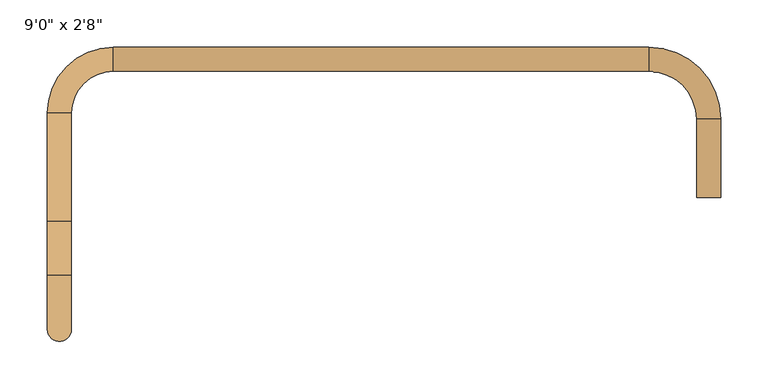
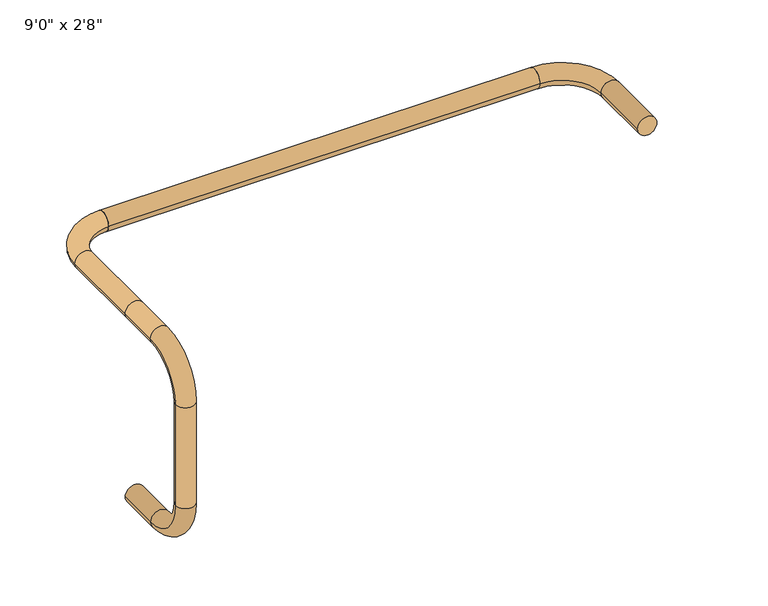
"""IFC4 building model written with IfcOpenShell, lengths in millimetres: door geometry."""

from ifc_helpers import new_model, si_unit, point, frame, frame_2d, origin, place, context, project, spatial, circle_curve, ellipse_curve, trimmed, segment, composite_curve, outline, extrude, source, transform, mapped, element, save
from ifc_brep_helpers import plane_surface, cylinder_surface, revolved_surface, advanced_brep


def door_a6d17446(model_context):
    return source(origin(), model_context, "Body", "SolidModel", [
        extrude(outline(composite_curve([segment(trimmed(circle_curve(frame_2d((1016.0, 342.9)), 12.7), [point((1016.0, 355.6))], [point((1016.0, 330.2))], False, "CARTESIAN"), True, "CONTINUOUS"), segment(trimmed(circle_curve(frame_2d((1016.0, 342.9)), 12.7), [point((1016.0, 330.2))], [point((1016.0, 355.6))], False, "CARTESIAN"), True, "CONTINUOUS")], self_intersect=False)), frame((0.0, -25.4, 0.0), z_axis=(0.0, 1.0, 0.0), x_axis=(0.0, 0.0, 1.0)), (0.0, 0.0, 1.0), 82.55),
        extrude(outline(composite_curve([segment(trimmed(circle_curve(frame_2d((120.65, 1016.0)), 12.7), [point((133.35, 1016.0))], [point((107.95, 1016.0))], False, "CARTESIAN"), True, "CONTINUOUS"), segment(trimmed(circle_curve(frame_2d((120.65, 1016.0)), 12.7), [point((107.95, 1016.0))], [point((133.35, 1016.0))], False, "CARTESIAN"), True, "CONTINUOUS")], self_intersect=False)), frame((-285.75, 0.0, 0.0), z_axis=(1.0, 0.0, 0.0), x_axis=(0.0, 1.0, 0.0)), (0.0, 0.0, 1.0), 565.15),
        advanced_brep(
        [(279.4, 107.95, 1016.0), (279.4, 133.35, 1016.0), (330.2, 57.15, 1016.0), (355.6, 57.15, 1016.0)],
        [
            (0, 1, circle_curve(frame((279.4, 120.65, 1016.0), z_axis=(-1.0, 0.0, 0.0), x_axis=(0.0, 1.0, 0.0)), 12.7)),
            (1, 0, circle_curve(frame((279.4, 120.65, 1016.0), z_axis=(-1.0, 0.0, 0.0), x_axis=(0.0, 1.0, 0.0)), 12.7)),
            (2, 3, circle_curve(frame((342.9, 57.15, 1016.0), z_axis=(0.0, -1.0, 0.0), x_axis=(1.0, 0.0, 0.0)), 12.7)),
            (3, 2, circle_curve(frame((342.9, 57.15, 1016.0), z_axis=(0.0, -1.0, 0.0), x_axis=(1.0, 0.0, 0.0)), 12.7)),
            (3, 1, circle_curve(frame((279.4, 57.15, 1016.0), z_axis=(0.0, 0.0, 1.0), x_axis=(0.0, 1.0, 0.0)), 76.2)),
            (0, 2, circle_curve(frame((279.4, 57.15, 1016.0), z_axis=(0.0, 0.0, -1.0), x_axis=(0.0, 1.0, 0.0)), 50.8)),
        ],
        [
            plane_surface(frame((279.4, 120.65, 1016.0), z_axis=(-1.0, 0.0, 0.0), x_axis=(0.0, 0.0, 1.0))),
            plane_surface(frame((342.9, 57.15, 1016.0), z_axis=(0.0, -1.0, 0.0), x_axis=(0.0, 0.0, 1.0))),
            revolved_surface(trimmed(ellipse_curve(frame((279.4, 120.65, 1016.0), z_axis=(-1.0, 0.0, 0.0), x_axis=(0.0, 1.0, 0.0)), 12.7, 12.7), [point((279.4, 107.95, 1016.0))], [point((279.4, 133.35, 1016.0))], True, "CARTESIAN"), (279.4, 57.15, 1016.0), (0.0, 0.0, -1.0)),
            revolved_surface(trimmed(ellipse_curve(frame((279.4, 120.65, 1016.0), z_axis=(-1.0, 0.0, 0.0), x_axis=(0.0, 1.0, 0.0)), 12.7, 12.7), [point((279.4, 133.35, 1016.0))], [point((279.4, 107.95, 1016.0))], True, "CARTESIAN"), (279.4, 57.15, 1016.0), (0.0, 0.0, -1.0)),
        ],
        [
            (0, [[1, 2]]),
            (1, [[3, 4]]),
            (2, [[5, -1, 6, -4]]),
            (3, [[-6, -2, -5, -3]]),
        ],
    ),
        advanced_brep(
        [(-330.2, -50.8, 762.0), (-355.6, -50.8, 762.0), (-330.2, -107.95, 762.0), (-355.6, -107.95, 762.0), (-355.6, -165.1, 819.15), (-330.2, -165.1, 819.15), (-330.2, -165.1, 958.85), (-355.6, -165.1, 958.85), (-355.6, -107.95, 1016.0), (-330.2, -107.95, 1016.0), (-330.2, -50.8, 1016.0), (-355.6, -50.8, 1016.0), (-330.2, 63.5, 1016.0), (-355.6, 63.5, 1016.0), (-285.75, 107.95, 1016.0), (-285.75, 133.35, 1016.0)],
        [
            (0, 1, circle_curve(frame((-342.9, -50.8, 762.0), z_axis=(0.0, 1.0, 0.0), x_axis=(-1.0, 0.0, 0.0)), 12.7)),
            (1, 0, circle_curve(frame((-342.9, -50.8, 762.0), z_axis=(0.0, 1.0, 0.0), x_axis=(-1.0, 0.0, 0.0)), 12.7)),
            (0, 2),
            (2, 3, circle_curve(frame((-342.9, -107.95, 762.0), z_axis=(0.0, 1.0, 0.0), x_axis=(-1.0, 0.0, 0.0)), 12.7)),
            (3, 1),
            (3, 2, circle_curve(frame((-342.9, -107.95, 762.0), z_axis=(0.0, 1.0, 0.0), x_axis=(-1.0, 0.0, 0.0)), 12.7)),
            (4, 3, circle_curve(frame((-355.6, -107.95, 819.15), z_axis=(1.0, 0.0, 0.0), x_axis=(0.0, 0.0, -1.0)), 57.15)),
            (2, 5, circle_curve(frame((-330.2, -107.95, 819.15), z_axis=(-1.0, 0.0, 0.0), x_axis=(0.0, 0.0, -1.0)), 57.15)),
            (5, 4, circle_curve(frame((-342.9, -165.1, 819.15), z_axis=(0.0, 0.0, -1.0), x_axis=(-1.0, 0.0, 0.0)), 12.7)),
            (4, 5, circle_curve(frame((-342.9, -165.1, 819.15), z_axis=(0.0, 0.0, -1.0), x_axis=(-1.0, 0.0, 0.0)), 12.7)),
            (5, 6),
            (6, 7, circle_curve(frame((-342.9, -165.1, 958.85), z_axis=(0.0, 0.0, -1.0), x_axis=(-1.0, 0.0, 0.0)), 12.7)),
            (7, 4),
            (7, 6, circle_curve(frame((-342.9, -165.1, 958.85), z_axis=(0.0, 0.0, -1.0), x_axis=(-1.0, 0.0, 0.0)), 12.7)),
            (8, 7, circle_curve(frame((-355.6, -107.95, 958.85), z_axis=(1.0, 0.0, 0.0), x_axis=(0.0, -1.0, 0.0)), 57.15)),
            (6, 9, circle_curve(frame((-330.2, -107.95, 958.85), z_axis=(-1.0, 0.0, 0.0), x_axis=(0.0, -1.0, 0.0)), 57.15)),
            (9, 8, circle_curve(frame((-342.9, -107.95, 1016.0), z_axis=(0.0, -1.0, 0.0), x_axis=(-1.0, 0.0, 0.0)), 12.7)),
            (8, 9, circle_curve(frame((-342.9, -107.95, 1016.0), z_axis=(0.0, -1.0, 0.0), x_axis=(-1.0, 0.0, 0.0)), 12.7)),
            (9, 10),
            (10, 11, circle_curve(frame((-342.9, -50.8, 1016.0), z_axis=(0.0, -1.0, 0.0), x_axis=(-1.0, 0.0, 0.0)), 12.7)),
            (11, 8),
            (11, 10, circle_curve(frame((-342.9, -50.8, 1016.0), z_axis=(0.0, -1.0, 0.0), x_axis=(-1.0, 0.0, 0.0)), 12.7)),
            (10, 12),
            (12, 13, circle_curve(frame((-342.9, 63.5, 1016.0), z_axis=(0.0, -1.0, 0.0), x_axis=(-1.0, 0.0, 0.0)), 12.7)),
            (13, 11),
            (13, 12, circle_curve(frame((-342.9, 63.5, 1016.0), z_axis=(0.0, -1.0, 0.0), x_axis=(-1.0, 0.0, 0.0)), 12.7)),
            (14, 15, circle_curve(frame((-285.75, 120.65, 1016.0), z_axis=(1.0, 0.0, 0.0), x_axis=(0.0, 1.0, 0.0)), 12.7)),
            (15, 14, circle_curve(frame((-285.75, 120.65, 1016.0), z_axis=(1.0, 0.0, 0.0), x_axis=(0.0, 1.0, 0.0)), 12.7)),
            (15, 13, circle_curve(frame((-285.75, 63.5, 1016.0), z_axis=(0.0, 0.0, 1.0), x_axis=(-1.0, 0.0, 0.0)), 69.85)),
            (12, 14, circle_curve(frame((-285.75, 63.5, 1016.0), z_axis=(0.0, 0.0, -1.0), x_axis=(-1.0, 0.0, 0.0)), 44.45)),
        ],
        [
            plane_surface(frame((-330.2, -50.8, 762.0), z_axis=(0.0, 1.0, 0.0), x_axis=(0.0, 0.0, 1.0))),
            cylinder_surface(frame((-342.9, -50.8, 762.0), z_axis=(0.0, 1.0, 0.0), x_axis=(-1.0, 0.0, 0.0)), 12.7),
            revolved_surface(trimmed(ellipse_curve(frame((-342.9, -107.95, 762.0), z_axis=(0.0, 1.0, 0.0), x_axis=(-1.0, 0.0, 0.0)), 12.7, 12.7), [point((-330.2, -107.95, 762.0))], [point((-355.6, -107.95, 762.0))], True, "CARTESIAN"), (-342.9, -107.95, 819.15), (-1.0, 0.0, 0.0)),
            revolved_surface(trimmed(ellipse_curve(frame((-342.9, -107.95, 762.0), z_axis=(0.0, 1.0, 0.0), x_axis=(-1.0, 0.0, 0.0)), 12.7, 12.7), [point((-355.6, -107.95, 762.0))], [point((-330.2, -107.95, 762.0))], True, "CARTESIAN"), (-342.9, -107.95, 819.15), (-1.0, 0.0, 0.0)),
            cylinder_surface(frame((-342.9, -165.1, 819.15), z_axis=(0.0, 0.0, -1.0), x_axis=(-1.0, 0.0, 0.0)), 12.7),
            revolved_surface(trimmed(ellipse_curve(frame((-342.9, -165.1, 958.85), z_axis=(0.0, 0.0, -1.0), x_axis=(-1.0, 0.0, 0.0)), 12.7, 12.7), [point((-330.2, -165.1, 958.85))], [point((-355.6, -165.1, 958.85))], True, "CARTESIAN"), (-342.9, -107.95, 958.85), (-1.0, 0.0, 0.0)),
            revolved_surface(trimmed(ellipse_curve(frame((-342.9, -165.1, 958.85), z_axis=(0.0, 0.0, -1.0), x_axis=(-1.0, 0.0, 0.0)), 12.7, 12.7), [point((-355.6, -165.1, 958.85))], [point((-330.2, -165.1, 958.85))], True, "CARTESIAN"), (-342.9, -107.95, 958.85), (-1.0, 0.0, 0.0)),
            cylinder_surface(frame((-342.9, -107.95, 1016.0), z_axis=(0.0, -1.0, 0.0), x_axis=(-1.0, 0.0, 0.0)), 12.7),
            cylinder_surface(frame((-342.9, -50.8, 1016.0), z_axis=(0.0, -1.0, 0.0), x_axis=(-1.0, 0.0, 0.0)), 12.7),
            plane_surface(frame((-285.75, 63.5, 1016.0), z_axis=(1.0, 0.0, 0.0), x_axis=(0.0, 1.0, 0.0))),
            revolved_surface(trimmed(ellipse_curve(frame((-342.9, 63.5, 1016.0), z_axis=(0.0, -1.0, 0.0), x_axis=(-1.0, 0.0, 0.0)), 12.7, 12.7), [point((-330.2, 63.5, 1016.0))], [point((-355.6, 63.5, 1016.0))], True, "CARTESIAN"), (-285.75, 63.5, 1016.0), (0.0, 0.0, -1.0)),
            revolved_surface(trimmed(ellipse_curve(frame((-342.9, 63.5, 1016.0), z_axis=(0.0, -1.0, 0.0), x_axis=(-1.0, 0.0, 0.0)), 12.7, 12.7), [point((-355.6, 63.5, 1016.0))], [point((-330.2, 63.5, 1016.0))], True, "CARTESIAN"), (-285.75, 63.5, 1016.0), (0.0, 0.0, -1.0)),
        ],
        [
            (0, [[1, 2]]),
            (1, [[-1, 3, 4, 5]]),
            (1, [[-2, -5, 6, -3]]),
            (2, [[7, -4, 8, 9]]),
            (3, [[-8, -6, -7, 10]]),
            (4, [[-9, 11, 12, 13]]),
            (4, [[-10, -13, 14, -11]]),
            (5, [[15, -12, 16, 17]]),
            (6, [[-16, -14, -15, 18]]),
            (7, [[-17, 19, 20, 21]]),
            (7, [[-18, -21, 22, -19]]),
            (8, [[-20, 23, 24, 25]]),
            (8, [[-22, -25, 26, -23]]),
            (9, [[27, 28]]),
            (10, [[29, -24, 30, -28]]),
            (11, [[-30, -26, -29, -27]]),
        ],
    ),
    ])


if __name__ == "__main__":
    model = new_model("IFC4")
    model_context = context("Model", 3, world=origin())
    ifc_project = project(units=[si_unit("LENGTHUNIT", "METRE", prefix="MILLI")], contexts=[model_context])
    site = spatial("IfcSite", under=ifc_project)
    building = spatial("IfcBuilding", under=site)
    placement = place(None, origin())
    door_shape = door_a6d17446(model_context)
    element("IfcDoor", 1, ObjectType="Planitar - Single Door_Swapper : 9'0\" x 2'8\"", at=placement, inside=building, context=model_context, shape_type="MappedRepresentation", body=[
        mapped(door_shape, transform((0.0, 0.0, 0.0), x_axis=(1.0, 0.0, 0.0), y_axis=(0.0, 1.0, 0.0), z_axis=(0.0, 0.0, 1.0))),
    ])
    save(model, "model.ifc")
